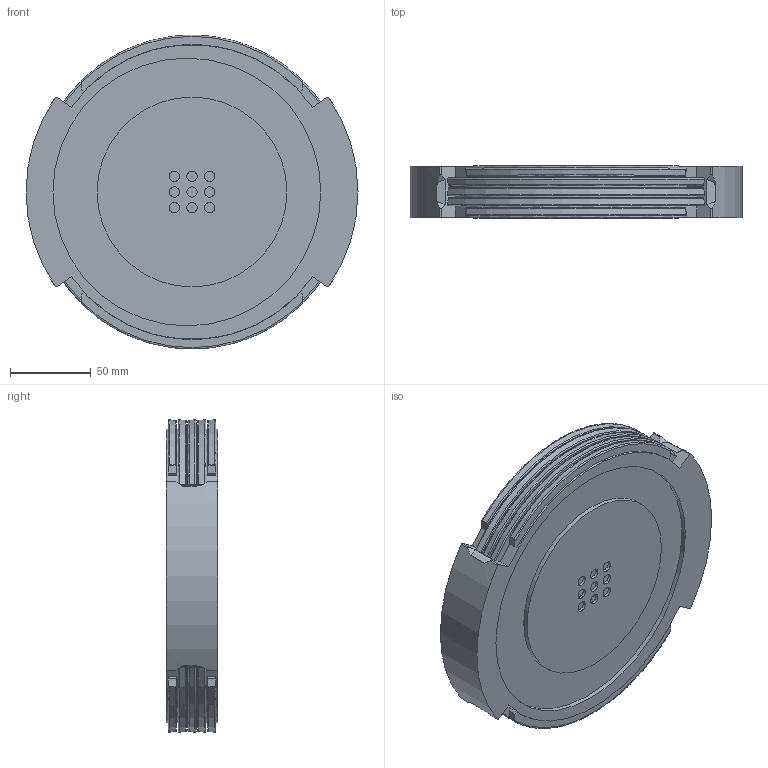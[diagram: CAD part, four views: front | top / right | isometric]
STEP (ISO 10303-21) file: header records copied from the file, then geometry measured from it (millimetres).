
FILE_DESCRIPTION(/* description */ ('STEP AP242 Edition 2','CAx-IF Rec.Pracs.---Representation and Presentation of Product Manufacturing Information (PMI)---4.0---2014-10-13','CAx-IF Rec.Pracs.---3D Tessellated Geometry---0.4---2014-09-14','2;1','CAx-IF Rec.Pracs.---User Defined Attributes---1.5---2016-08-15'),/* implementation_level */ '2;1');
FILE_NAME(/* name */ 'energy_shield_grenade - Part 1',/* time_stamp */ '2026-02-18T00:38:34Z',/* author */ (''),/* organization */ (''),/* preprocessor_version */ 'ST-DEVELOPER v20',/* originating_system */ 'ONSHAPE BY PTC INC, 1.210',/* authorisation */ ' ');
FILE_SCHEMA (('AP242_MANAGED_MODEL_BASED_3D_ENGINEERING_MIM_LF { 1 0 10303 442 3 1 4 }'));
Length unit declared in the file: metre
Products named in the file (1): Part 1
Bounding box: 205.02 x 31.88 x 193.66 mm (x, y, z)
Volume: 896527.9 mm3; surface area: 102109.5 mm2
Topology: 1 solids, 1 shells, 180 faces, 466 edges, 314 vertices
Faces by surface type: bspline 180
Entity records: 6080 total; most frequent: CARTESIAN_POINT 2281, ORIENTED_EDGE 932, DIRECTION 594, EDGE_CURVE 466, VERTEX_POINT 314, AXIS2_PLACEMENT_3D 219, EDGE_LOOP 206, FACE_BOUND 206
